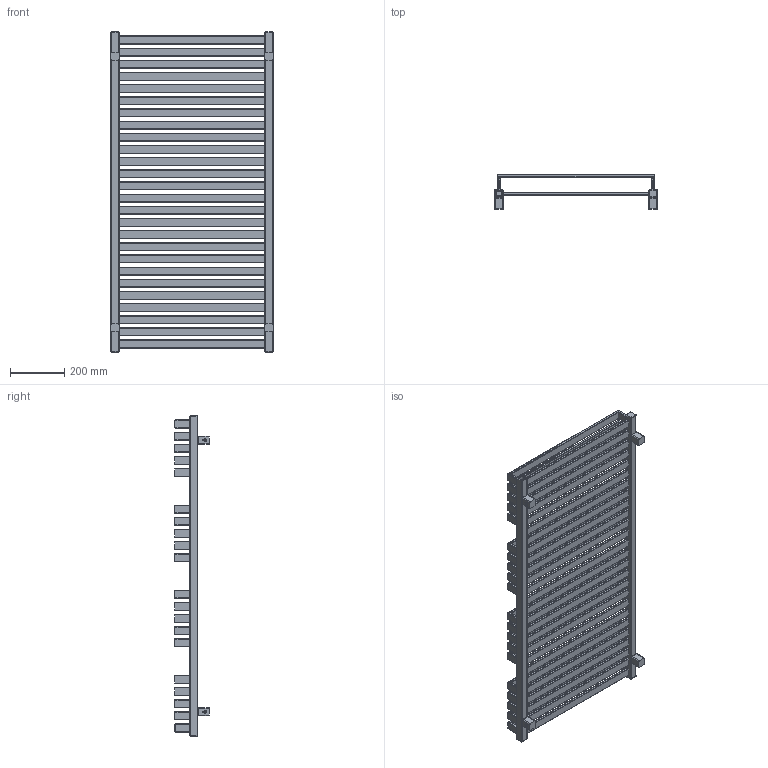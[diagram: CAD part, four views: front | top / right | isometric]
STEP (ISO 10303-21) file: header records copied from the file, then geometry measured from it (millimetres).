
FILE_DESCRIPTION((''),'2;1');
FILE_NAME('Z:\R\G\P\RGP093 - Grzejnik Quadrus Bold 2012\Work\Inventor\Marketing\Modele AutoCAD\QBA-1185-600 S5.stp','2012-07-02T07:49:57',('KurKa'),(''),'Autodesk Inventor 2012','Autodesk Inventor 2012','');
FILE_SCHEMA(('AUTOMOTIVE_DESIGN { 1 0 10303 214 1 1 1 1 }'));
Length unit declared in the file: millimetre
Products named in the file (3): QBA-1185-600 S5; MMT42_marketing
Assembly tree (5 placements, depth 2):
  QBA-1185-600 S5
    QBA-1185-600 S5
    MMT42_marketing  x4
Bounding box: 606 x 127 x 1185 mm (x, y, z)
Volume: 10422849.4 mm3; surface area: 2403244.6 mm2
Topology: 5 solids, 5 shells, 855 faces, 2237 edges, 1405 vertices
Faces by surface type: cylinder 421, plane 379, cone 27, sphere 16, torus 8, bspline 4
Full cylindrical faces by diameter (mm): 4.509 x4, 12 x4, 18.631 x3
Entity records: 22649 total; most frequent: CARTESIAN_POINT 4158, DIRECTION 3964, ORIENTED_EDGE 3772, EDGE_CURVE 1886, AXIS2_PLACEMENT_3D 1358, VECTOR 1248, LINE 1248, VERTEX_POINT 1188
